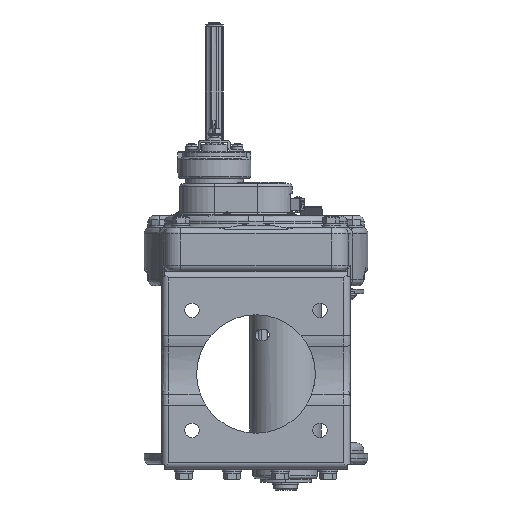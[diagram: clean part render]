
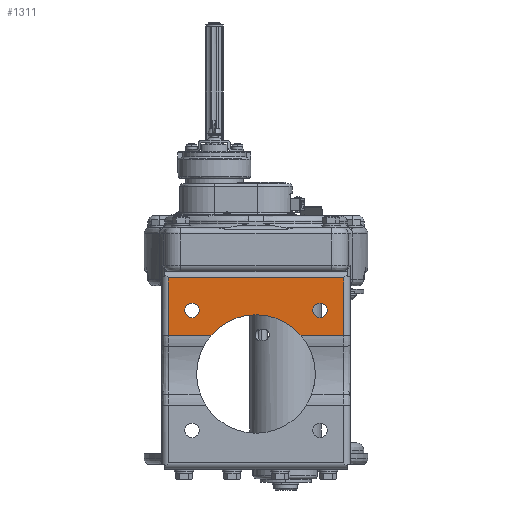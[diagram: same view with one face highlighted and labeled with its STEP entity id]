
A CAD part, front view. The second image highlights one B-rep face of the part: STEP entity #1311.
In plain terms, the highlighted planar face has unit normal (0, -1, 0).
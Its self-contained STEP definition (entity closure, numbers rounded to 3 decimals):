
#1311=ADVANCED_FACE('',(#15432,#15433,#15434),#15431,.F.);
#15431=PLANE('',#46754);
#15432=FACE_OUTER_BOUND('',#46755,.T.);
#15433=FACE_BOUND('',#46756,.T.);
#15434=FACE_BOUND('',#46757,.T.);
#46751=CARTESIAN_POINT('',(-127.722,-108.7,-182.168));
#46752=DIRECTION('',(0.,1.,0.));
#46753=DIRECTION('',(0.,0.,-1.));
#46754=AXIS2_PLACEMENT_3D('',#46751,#46752,#46753);
#46755=EDGE_LOOP('',(#66509,#66510,#66511,#66512,#66513,#66514,#66515));
#46756=EDGE_LOOP('',(#66516,#66517));
#46757=EDGE_LOOP('',(#66518,#66519));
#66509=ORIENTED_EDGE('',*,*,#80457,.T.);
#66510=ORIENTED_EDGE('',*,*,#80481,.T.);
#66511=ORIENTED_EDGE('',*,*,#80482,.T.);
#66512=ORIENTED_EDGE('',*,*,#80479,.T.);
#66513=ORIENTED_EDGE('',*,*,#80445,.T.);
#66514=ORIENTED_EDGE('',*,*,#80276,.F.);
#66515=ORIENTED_EDGE('',*,*,#80303,.F.);
#66516=ORIENTED_EDGE('',*,*,#80483,.T.);
#66517=ORIENTED_EDGE('',*,*,#80484,.T.);
#66518=ORIENTED_EDGE('',*,*,#80485,.T.);
#66519=ORIENTED_EDGE('',*,*,#80486,.T.);
#80276=EDGE_CURVE('',#108069,#108035,#108076,.T.);
#80303=EDGE_CURVE('',#108184,#108069,#108260,.T.);
#80445=EDGE_CURVE('',#108923,#108035,#109214,.T.);
#80457=EDGE_CURVE('',#108184,#109283,#109290,.T.);
#80479=EDGE_CURVE('',#109434,#108923,#109435,.T.);
#80481=EDGE_CURVE('',#109283,#109447,#109448,.T.);
#80482=EDGE_CURVE('',#109447,#109434,#109454,.T.);
#80483=EDGE_CURVE('',#109460,#109461,#109462,.T.);
#80484=EDGE_CURVE('',#109461,#109460,#109468,.T.);
#80485=EDGE_CURVE('',#109474,#109475,#109476,.T.);
#80486=EDGE_CURVE('',#109475,#109474,#109482,.T.);
#108035=VERTEX_POINT('',#156787);
#108069=VERTEX_POINT('',#156808);
#108076=LINE('',#156812,#156813);
#108184=VERTEX_POINT('',#156873);
#108260=LINE('',#156925,#156926);
#108923=VERTEX_POINT('',#157329);
#109214=LINE('',#157516,#157517);
#109283=VERTEX_POINT('',#157575);
#109290=LINE('',#157582,#157583);
#109434=VERTEX_POINT('',#157723);
#109435=LINE('',#157724,#157725);
#109447=VERTEX_POINT('',#157737);
#109448=CIRCLE('',#157741,74.);
#109454=CIRCLE('',#157745,74.);
#109460=VERTEX_POINT('',#157746);
#109461=VERTEX_POINT('',#157747);
#109462=CIRCLE('',#157751,9.);
#109468=CIRCLE('',#157755,9.);
#109474=VERTEX_POINT('',#157756);
#109475=VERTEX_POINT('',#157757);
#109476=CIRCLE('',#157761,9.);
#109482=CIRCLE('',#157765,9.);
#156787=CARTESIAN_POINT('',(-137.722,-108.7,-189.364));
#156808=CARTESIAN_POINT('',(-356.722,-108.7,-189.364));
#156812=CARTESIAN_POINT('',(-356.722,-108.7,-189.364));
#156813=VECTOR('',#156814,219.);
#156814=DIRECTION('',(1.,0.,0.));
#156873=CARTESIAN_POINT('',(-356.722,-108.7,-261.321));
#156925=CARTESIAN_POINT('',(-356.722,-108.7,-261.321));
#156926=VECTOR('',#156927,71.957);
#156927=DIRECTION('',(0.,0.,1.));
#157329=CARTESIAN_POINT('',(-137.722,-108.7,-261.321));
#157516=CARTESIAN_POINT('',(-137.722,-108.7,-261.321));
#157517=VECTOR('',#157518,71.957);
#157518=DIRECTION('',(0.,0.,1.));
#157575=CARTESIAN_POINT('',(-303.505,-108.7,-261.321));
#157582=CARTESIAN_POINT('',(-356.722,-108.7,-261.321));
#157583=VECTOR('',#157584,53.216);
#157584=DIRECTION('',(1.,0.,0.));
#157723=CARTESIAN_POINT('',(-190.938,-108.7,-261.321));
#157724=CARTESIAN_POINT('',(-190.938,-108.7,-261.321));
#157725=VECTOR('',#157726,53.216);
#157726=DIRECTION('',(1.,0.,0.));
#157737=CARTESIAN_POINT('',(-247.222,-108.7,-235.364));
#157738=CARTESIAN_POINT('',(-247.222,-108.7,-309.364));
#157739=DIRECTION('',(0.,1.,0.));
#157740=DIRECTION('',(-0.761,0.,0.649));
#157741=AXIS2_PLACEMENT_3D('',#157738,#157739,#157740);
#157742=CARTESIAN_POINT('',(-247.222,-108.7,-309.364));
#157743=DIRECTION('',(0.,1.,0.));
#157744=DIRECTION('',(-0.761,0.,0.649));
#157745=AXIS2_PLACEMENT_3D('',#157742,#157743,#157744);
#157746=CARTESIAN_POINT('',(-167.222,-108.7,-238.864));
#157747=CARTESIAN_POINT('',(-167.222,-108.7,-220.864));
#157748=CARTESIAN_POINT('',(-167.222,-108.7,-229.864));
#157749=DIRECTION('',(0.,1.,0.));
#157750=DIRECTION('',(0.,0.,-1.));
#157751=AXIS2_PLACEMENT_3D('',#157748,#157749,#157750);
#157752=CARTESIAN_POINT('',(-167.222,-108.7,-229.864));
#157753=DIRECTION('',(0.,1.,0.));
#157754=DIRECTION('',(0.,0.,-1.));
#157755=AXIS2_PLACEMENT_3D('',#157752,#157753,#157754);
#157756=CARTESIAN_POINT('',(-327.222,-108.7,-238.864));
#157757=CARTESIAN_POINT('',(-327.222,-108.7,-220.864));
#157758=CARTESIAN_POINT('',(-327.222,-108.7,-229.864));
#157759=DIRECTION('',(0.,1.,0.));
#157760=DIRECTION('',(0.,0.,-1.));
#157761=AXIS2_PLACEMENT_3D('',#157758,#157759,#157760);
#157762=CARTESIAN_POINT('',(-327.222,-108.7,-229.864));
#157763=DIRECTION('',(0.,1.,0.));
#157764=DIRECTION('',(0.,0.,-1.));
#157765=AXIS2_PLACEMENT_3D('',#157762,#157763,#157764);
